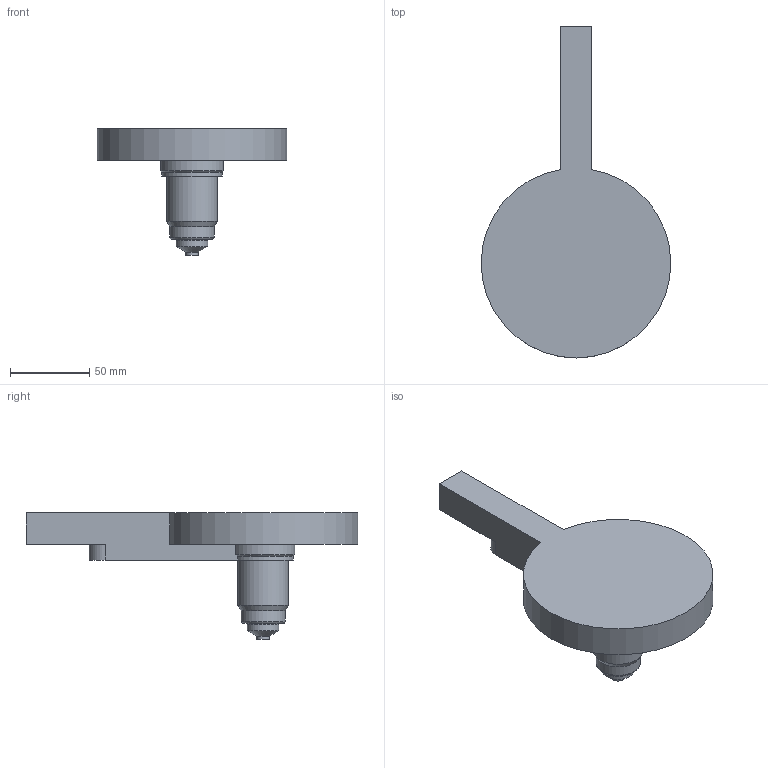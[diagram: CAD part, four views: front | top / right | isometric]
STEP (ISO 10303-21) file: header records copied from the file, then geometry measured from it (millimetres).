
FILE_DESCRIPTION( ( 'STEP AP214' ), '1' );
FILE_NAME( 'S:/PROIECTE_YUDO_2009/PROIECTE YUDO 3D/BIS/YUEU09-BIS18CF075_1/YUEU09-BIS18CF075_CutOut.step', '2009-06-23T05:30:40', ( ' ' ), ( ' ' ), 'XStep 1.0', ' ', ' ' );
FILE_SCHEMA( ( 'automotive_design' ) );
Length unit declared in the file: millimetre
Products named in the file (1): 1
Bounding box: 120 x 210 x 80 mm (x, y, z)
Volume: 324694.6 mm3; surface area: 44411.8 mm2
Topology: 1 solids, 1 shells, 22 faces, 49 edges, 31 vertices
Faces by surface type: plane 9, cylinder 8, cone 4, torus 1
Full cylindrical faces by diameter (mm): 8 x1, 20 x1, 28 x1, 32 x1
Entity records: 756 total; most frequent: DIRECTION 102, CARTESIAN_POINT 99, ORIENTED_EDGE 80, AXIS2_PLACEMENT_3D 41, EDGE_CURVE 40, EDGE_LOOP 32, VERTEX_POINT 30, FACE_OUTER_BOUND 27
